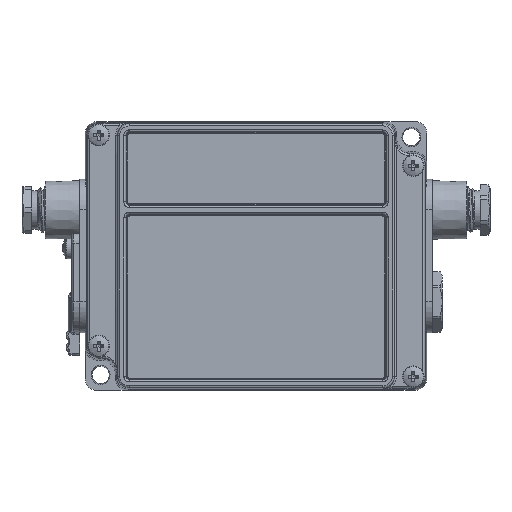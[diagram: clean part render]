
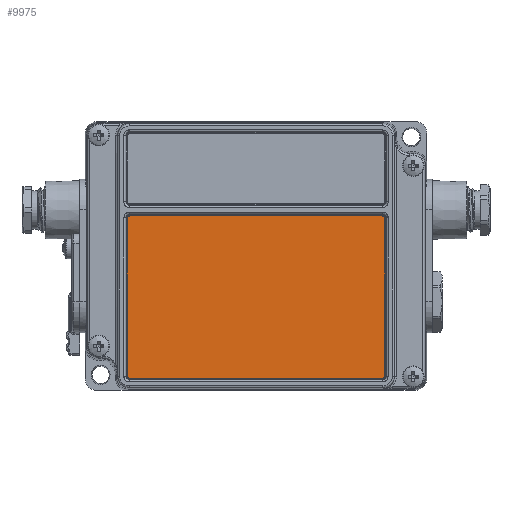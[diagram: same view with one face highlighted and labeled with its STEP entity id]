
A CAD part, top view. The second image highlights one B-rep face of the part: STEP entity #9975.
In plain terms, the highlighted planar face has unit normal (0, 0, 1) as drawn and (0, 1, 0) by its records, which use the part's own axes.
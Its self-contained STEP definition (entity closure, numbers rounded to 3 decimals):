
#35 = CARTESIAN_POINT ( 'NONE',  ( -33., 0.2, 10.4 ) ) ;
#302 = ORIENTED_EDGE ( 'NONE', *, *, #22517, .T. ) ;
#551 = VECTOR ( 'NONE', #11625, 1000. ) ;
#872 = CIRCLE ( 'NONE', #10379, 0.5 ) ;
#1084 = CARTESIAN_POINT ( 'NONE',  ( 33.5, 0.2, -31.35 ) ) ;
#1996 = EDGE_CURVE ( 'NONE', #37508, #20693, #872, .T. ) ;
#2082 = CARTESIAN_POINT ( 'NONE',  ( -33.5, 0.2, 9.9 ) ) ;
#2478 = CARTESIAN_POINT ( 'NONE',  ( 33.5, 0.2, 9.9 ) ) ;
#4395 = DIRECTION ( 'NONE',  ( 0., 0., 1. ) ) ;
#4855 = CIRCLE ( 'NONE', #27082, 0.5 ) ;
#4905 = ORIENTED_EDGE ( 'NONE', *, *, #6229, .T. ) ;
#6229 = EDGE_CURVE ( 'NONE', #11694, #12841, #13792, .T. ) ;
#6988 = DIRECTION ( 'NONE',  ( 0., 1., 0. ) ) ;
#7635 = ORIENTED_EDGE ( 'NONE', *, *, #18139, .T. ) ;
#9163 = ORIENTED_EDGE ( 'NONE', *, *, #28677, .T. ) ;
#9975 = ADVANCED_FACE ( 'NONE', ( #13148 ), #28263, .T. ) ;
#10189 = DIRECTION ( 'NONE',  ( 0., 0., -1. ) ) ;
#10281 = VECTOR ( 'NONE', #34698, 1000. ) ;
#10379 = AXIS2_PLACEMENT_3D ( 'NONE', #38305, #22362, #31336 ) ;
#11067 = AXIS2_PLACEMENT_3D ( 'NONE', #28643, #6988, #4395 ) ;
#11625 = DIRECTION ( 'NONE',  ( 1., 0., 0. ) ) ;
#11694 = VERTEX_POINT ( 'NONE', #1084 ) ;
#11845 = CARTESIAN_POINT ( 'NONE',  ( -33., 0.2, -31.85 ) ) ;
#12841 = VERTEX_POINT ( 'NONE', #38091 ) ;
#12868 = VERTEX_POINT ( 'NONE', #2478 ) ;
#13148 = FACE_OUTER_BOUND ( 'NONE', #13923, .T. ) ;
#13540 = AXIS2_PLACEMENT_3D ( 'NONE', #35584, #20453, #38382 ) ;
#13792 = CIRCLE ( 'NONE', #38570, 0.5 ) ;
#13923 = EDGE_LOOP ( 'NONE', ( #9163, #15868, #23275, #38127, #302, #33960, #4905, #7635 ) ) ;
#15868 = ORIENTED_EDGE ( 'NONE', *, *, #29739, .T. ) ;
#18059 = VERTEX_POINT ( 'NONE', #11845 ) ;
#18139 = EDGE_CURVE ( 'NONE', #12841, #18059, #28704, .T. ) ;
#19577 = CARTESIAN_POINT ( 'NONE',  ( -33., 0.2, -31.85 ) ) ;
#19730 = EDGE_CURVE ( 'NONE', #12868, #11694, #25692, .T. ) ;
#19817 = DIRECTION ( 'NONE',  ( 0., 1., 0. ) ) ;
#20453 = DIRECTION ( 'NONE',  ( 0., 1., 0. ) ) ;
#20693 = VERTEX_POINT ( 'NONE', #35 ) ;
#21239 = CARTESIAN_POINT ( 'NONE',  ( -33.5, 0.2, -31.35 ) ) ;
#22362 = DIRECTION ( 'NONE',  ( 0., 1., 0. ) ) ;
#22517 = EDGE_CURVE ( 'NONE', #25341, #12868, #33260, .T. ) ;
#23275 = ORIENTED_EDGE ( 'NONE', *, *, #1996, .T. ) ;
#24522 = CARTESIAN_POINT ( 'NONE',  ( -33.5, 0.2, 9.9 ) ) ;
#25341 = VERTEX_POINT ( 'NONE', #25514 ) ;
#25386 = DIRECTION ( 'NONE',  ( 0., 1., 0. ) ) ;
#25514 = CARTESIAN_POINT ( 'NONE',  ( 33., 0.2, 10.4 ) ) ;
#25692 = LINE ( 'NONE', #28672, #33090 ) ;
#26546 = CARTESIAN_POINT ( 'NONE',  ( -33., 0.2, 10.4 ) ) ;
#27082 = AXIS2_PLACEMENT_3D ( 'NONE', #34947, #19817, #31958 ) ;
#28263 = PLANE ( 'NONE',  #11067 ) ;
#28643 = CARTESIAN_POINT ( 'NONE',  ( -33., 0.2, -31.35 ) ) ;
#28672 = CARTESIAN_POINT ( 'NONE',  ( 33.5, 0.2, 9.9 ) ) ;
#28677 = EDGE_CURVE ( 'NONE', #18059, #33669, #4855, .T. ) ;
#28704 = LINE ( 'NONE', #19577, #10281 ) ;
#29739 = EDGE_CURVE ( 'NONE', #33669, #37508, #38493, .T. ) ;
#31336 = DIRECTION ( 'NONE',  ( 0., 0., 1. ) ) ;
#31366 = CARTESIAN_POINT ( 'NONE',  ( 33., 0.2, -31.35 ) ) ;
#31958 = DIRECTION ( 'NONE',  ( 0., 0., 1. ) ) ;
#33090 = VECTOR ( 'NONE', #10189, 1000. ) ;
#33260 = CIRCLE ( 'NONE', #13540, 0.5 ) ;
#33669 = VERTEX_POINT ( 'NONE', #21239 ) ;
#33960 = ORIENTED_EDGE ( 'NONE', *, *, #19730, .T. ) ;
#34698 = DIRECTION ( 'NONE',  ( -1., 0., 0. ) ) ;
#34947 = CARTESIAN_POINT ( 'NONE',  ( -33., 0.2, -31.35 ) ) ;
#35497 = DIRECTION ( 'NONE',  ( 0., 0., 1. ) ) ;
#35584 = CARTESIAN_POINT ( 'NONE',  ( 33., 0.2, 9.9 ) ) ;
#36053 = VECTOR ( 'NONE', #35497, 1000. ) ;
#37470 = EDGE_CURVE ( 'NONE', #20693, #25341, #38896, .T. ) ;
#37508 = VERTEX_POINT ( 'NONE', #24522 ) ;
#37539 = DIRECTION ( 'NONE',  ( 0., 0., 1. ) ) ;
#38091 = CARTESIAN_POINT ( 'NONE',  ( 33., 0.2, -31.85 ) ) ;
#38127 = ORIENTED_EDGE ( 'NONE', *, *, #37470, .T. ) ;
#38305 = CARTESIAN_POINT ( 'NONE',  ( -33., 0.2, 9.9 ) ) ;
#38382 = DIRECTION ( 'NONE',  ( 0., 0., 1. ) ) ;
#38493 = LINE ( 'NONE', #2082, #36053 ) ;
#38570 = AXIS2_PLACEMENT_3D ( 'NONE', #31366, #25386, #37539 ) ;
#38896 = LINE ( 'NONE', #26546, #551 ) ;
